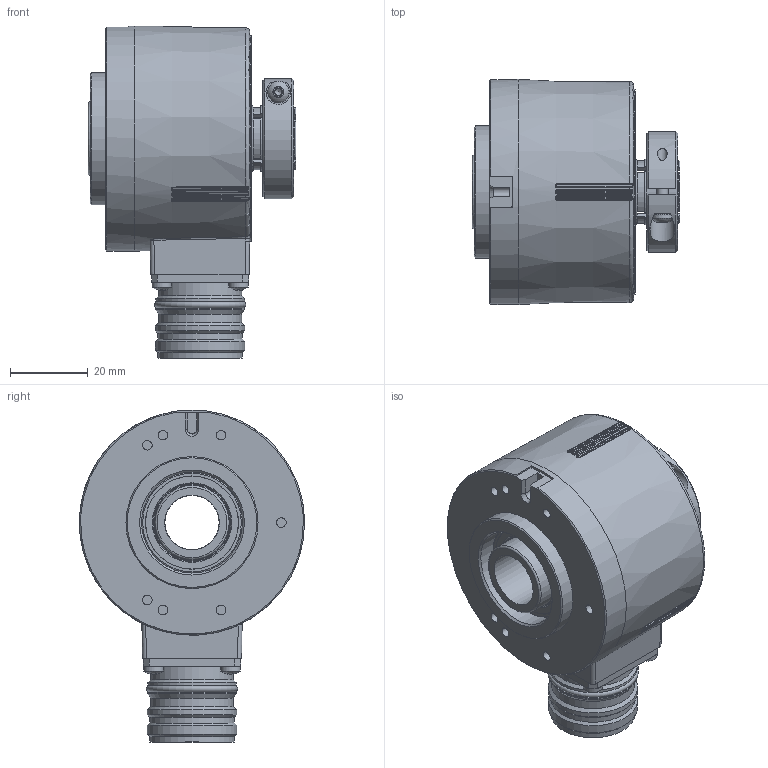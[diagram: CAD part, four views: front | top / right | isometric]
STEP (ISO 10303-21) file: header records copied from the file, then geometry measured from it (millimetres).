
FILE_DESCRIPTION( ( 'Unknown' ), '1' );
FILE_NAME( '//emea.baumernet.org/de05d/RD/caddy/k/GESAMT/EIL580/EIL580/3D/STEP/MarCom/EIL580-TPB4.5Fx.xxxxx.A.stp', 'Unknown', ( 'Unknown' ), ( 'Unknown' ), 'PSStep 19.0.9', 'Unknown', ' ' );
FILE_SCHEMA( ( 'AUTOMOTIVE_DESIGN { 1 0 10303 214 1 1 1 1 }' ) );
Length unit declared in the file: millimetre
Products named in the file (3): Assem1; 1_94; 2_27
Assembly tree (2 placements, depth 2):
  Assem1
    1_94
    2_27
Bounding box: 53.5 x 58 x 85.49 mm (x, y, z)
Volume: 108122 mm3; surface area: 24722.3 mm2
Topology: 2 solids, 15 shells, 742 faces, 1804 edges, 1146 vertices
Faces by surface type: plane 256, cylinder 180, extrusion 108, bspline 76, cone 60, torus 41, sphere 19, revolution 2
Full cylindrical faces by diameter (mm): 1 x12, 1.1 x12, 1.5 x1, 2.46 x15, 2.5 x4, 2.7 x4, 3 x1, 3.4 x1, 5 x4, 14 x1, 14.1 x1, 16.2 x1, 16.8 x1, 16.95 x1, 17.1 x1, 17.3 x1, 18.262 x1, 18.704 x1, 19 x2, 19.312 x1, 20 x1, 20.5 x1, 21.4 x2, 21.74 x2, 21.927 x1, 22.558 x1, 22.85 x2, 23 x2, 23.904 x1, 26 x1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
Entity records: 52376 total; most frequent: CARTESIAN_POINT 30764, ORIENTED_EDGE 3188, DIRECTION 2784, EDGE_CURVE 1594, VERTEX_POINT 1119, AXIS2_PLACEMENT_3D 1057, EDGE_LOOP 993, FACE_OUTER_BOUND 848
